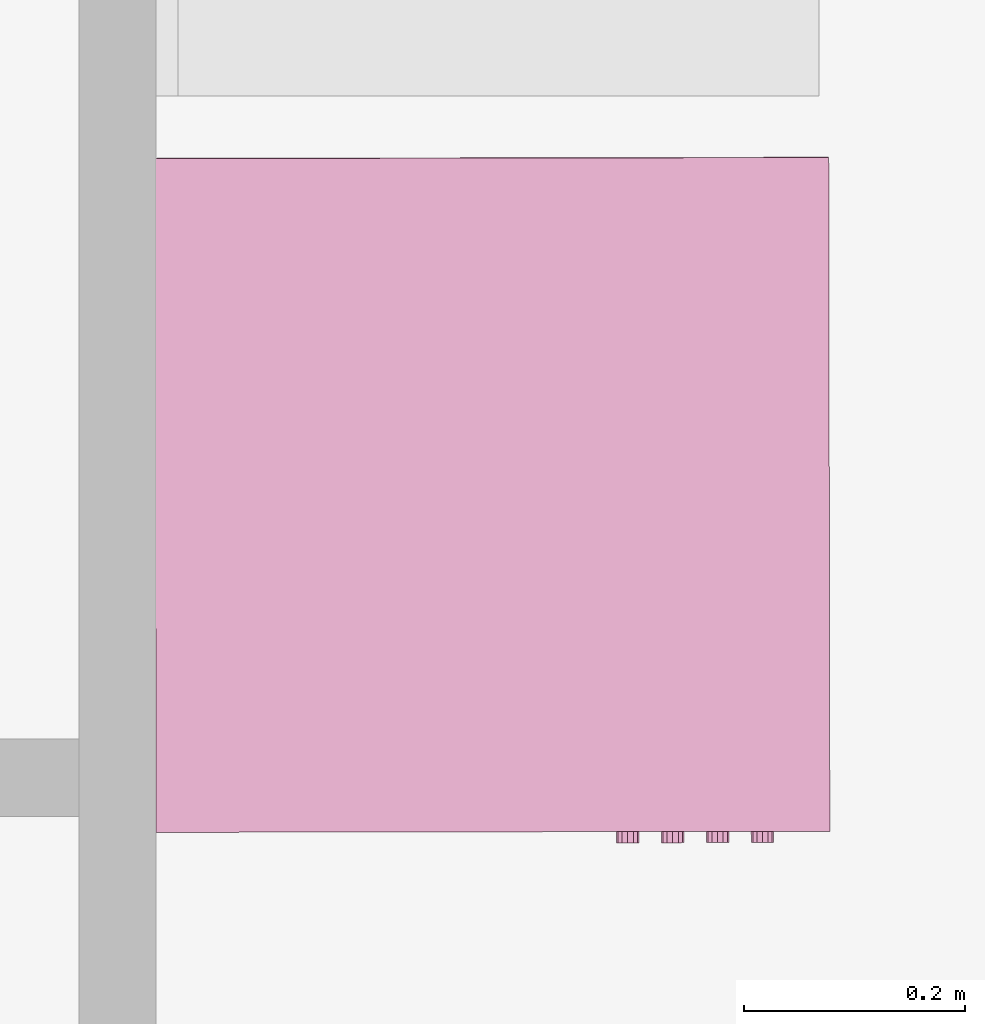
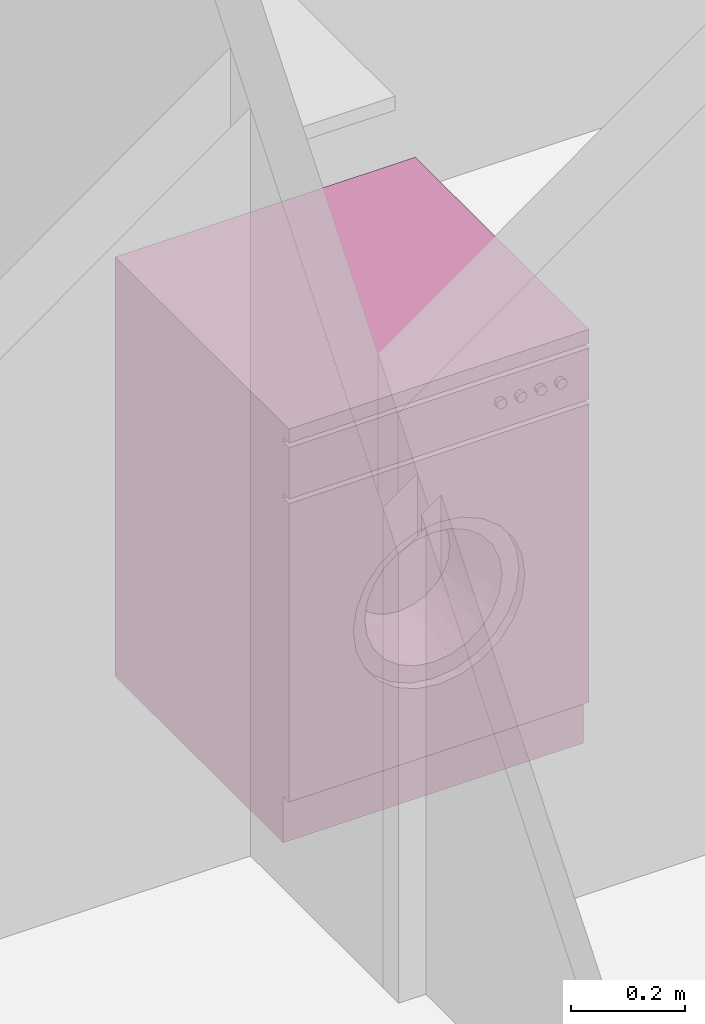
# One storey, part 120 of 164: 1 furnishing.
"""IFC2X3 building model written with IfcOpenShell, lengths in millimetres."""

from ifc_helpers import new_model, entity, si_unit, converted_unit, derived_unit, money_unit, direction, frame, origin_with_axes, place, context, subcontext, project, spatial, open_shell, faceted_brep, surface_model, source, transform, mapped, type_object, element, save


model = new_model("IFC2X3")

# Units and contexts
model_context = context("Model", 3, precision=0.01, world=origin_with_axes(), true_north=direction((0.0, 1.0)))
body_context = subcontext(model_context, "Body", "Model", "MODEL_VIEW")
ifc_project = project(units=[si_unit("LENGTHUNIT", "METRE", prefix="MILLI"), si_unit("AREAUNIT", "SQUARE_METRE"), si_unit("VOLUMEUNIT", "CUBIC_METRE"), converted_unit("PLANEANGLEUNIT", "DEGREE", entity("IfcPlaneAngleMeasure", 0.0174532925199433), si_unit("PLANEANGLEUNIT", "RADIAN"), dimensions=[0, 0, 0, 0, 0, 0, 0]), money_unit("USD"), converted_unit("TIMEUNIT", "Year", entity("IfcTimeMeasure", 31557600.0), si_unit("TIMEUNIT", "SECOND"), dimensions=[0, 0, 1, 0, 0, 0, 0]), si_unit("MASSUNIT", "GRAM", prefix="KILO"), si_unit("THERMODYNAMICTEMPERATUREUNIT", "DEGREE_CELSIUS"), si_unit("LUMINOUSINTENSITYUNIT", "LUMEN"), si_unit("ENERGYUNIT", "JOULE", prefix="MEGA"), derived_unit("THERMALCONDUCTANCEUNIT", [(si_unit("POWERUNIT", "WATT"), 1), (si_unit("LENGTHUNIT", "METRE"), -1), (si_unit("THERMODYNAMICTEMPERATUREUNIT", "KELVIN"), -1)]), derived_unit("SPECIFICHEATCAPACITYUNIT", [(si_unit("ENERGYUNIT", "JOULE"), 1), (si_unit("MASSUNIT", "GRAM", prefix="KILO"), -1), (si_unit("THERMODYNAMICTEMPERATUREUNIT", "KELVIN"), -1)]), derived_unit("MASSDENSITYUNIT", [(si_unit("MASSUNIT", "GRAM", prefix="KILO"), 1), (si_unit("VOLUMEUNIT", "CUBIC_METRE"), -1)])], contexts=[model_context])

# Site, building, storey
site_placement = place(None, origin_with_axes())
site = spatial("IfcSite", under=ifc_project, at=site_placement, Name="Site", CompositionType="ELEMENT")
building_placement = place(site_placement, origin_with_axes())
building = spatial("IfcBuilding", under=site, at=building_placement, Name="Bâtiment", CompositionType="ELEMENT")
storey_placement = place(building_placement, frame((0.0, 0.0, 5750.0), z_axis=(0.0, 0.0, 1.0), x_axis=(1.0, 0.0, 0.0)))
storey = spatial("IfcBuildingStorey", under=building, at=storey_placement, Name="Etage1", CompositionType="ELEMENT", Elevation=5750.0)

# Furnishing
furnishing_element_type = type_object("IfcFurnishingElementType", Name="Machine à laver")
shared_shape = source(origin_with_axes(), body_context, "Body", "SurfaceModel", [
    faceted_brep([(0.0, 20.33333333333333, 100.0), (0.0, 0.0, 100.0), (-610.0, 0.0, 100.0), (-610.0, 20.33333333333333, 100.0), (0.0, 20.33333333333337, 740.0), (0.0, 0.0, 740.0), (-610.0, 0.0, 740.0), (-479.2857142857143, 0.0, 420.0000000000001), (-473.3470725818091, 0.0, 465.1084621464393), (-455.935856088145, 0.0, 507.1428571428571), (-428.2386104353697, 0.0, 543.2386104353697), (-392.1428571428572, 0.0, 570.935856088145), (-350.1084621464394, 0.0, 588.347072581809), (-305.0000000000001, 0.0, 594.2857142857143), (-259.8915378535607, 0.0, 588.347072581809), (-217.8571428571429, 0.0, 570.9358560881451), (-181.7613895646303, 0.0, 543.2386104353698), (-154.0641439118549, 0.0, 507.1428571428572), (-136.6529274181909, 0.0, 465.1084621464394), (-130.7142857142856, 0.0, 420.0000000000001), (-136.6529274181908, 0.0, 374.8915378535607), (-154.0641439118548, 0.0, 332.8571428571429), (-181.7613895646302, 0.0, 296.7613895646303), (-217.8571428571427, 0.0, 269.064143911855), (-259.8915378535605, 0.0, 251.6529274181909), (-304.9999999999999, 0.0, 245.7142857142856), (-350.1084621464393, 0.0, 251.6529274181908), (-392.1428571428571, 0.0, 269.0641439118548), (-428.2386104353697, 0.0, 296.7613895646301), (-455.935856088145, 0.0, 332.8571428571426), (-473.3470725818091, 0.0, 374.8915378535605), (-610.0, 20.33333333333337, 740.0), (-479.2857142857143, 20.33333333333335, 420.0000000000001), (-473.3470725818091, 20.33333333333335, 374.8915378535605), (-455.935856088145, 20.33333333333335, 332.8571428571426), (-428.2386104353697, 20.33333333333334, 296.7613895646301), (-392.1428571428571, 20.33333333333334, 269.0641439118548), (-350.1084621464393, 20.33333333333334, 251.6529274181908), (-304.9999999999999, 20.33333333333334, 245.7142857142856), (-259.8915378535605, 20.33333333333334, 251.6529274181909), (-217.8571428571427, 20.33333333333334, 269.064143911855), (-181.7613895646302, 20.33333333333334, 296.7613895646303), (-154.0641439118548, 20.33333333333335, 332.8571428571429), (-136.6529274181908, 20.33333333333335, 374.8915378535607), (-130.7142857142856, 20.33333333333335, 420.0000000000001), (-136.6529274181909, 20.33333333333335, 465.1084621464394), (-154.0641439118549, 20.33333333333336, 507.1428571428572), (-181.7613895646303, 20.33333333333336, 543.2386104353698), (-217.8571428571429, 20.33333333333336, 570.9358560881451), (-259.8915378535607, 20.33333333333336, 588.347072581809), (-305.0000000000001, 20.33333333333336, 594.2857142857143), (-350.1084621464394, 20.33333333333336, 588.347072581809), (-392.1428571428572, 20.33333333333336, 570.935856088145), (-428.2386104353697, 20.33333333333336, 543.2386104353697), (-455.935856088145, 20.33333333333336, 507.1428571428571), (-473.3470725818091, 20.33333333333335, 465.1084621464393)], [[[0, 1, 2, 3]], [[4, 5, 1, 0]], [[1, 5, 6, 2], [7, 8, 9, 10, 11, 12, 13, 14, 15, 16, 17, 18, 19, 20, 21, 22, 23, 24, 25, 26, 27, 28, 29, 30]], [[3, 2, 6, 31]], [[0, 3, 31, 4], [32, 33, 34, 35, 36, 37, 38, 39, 40, 41, 42, 43, 44, 45, 46, 47, 48, 49, 50, 51, 52, 53, 54, 55]], [[31, 6, 5, 4]], [[55, 8, 7, 32]], [[54, 9, 8, 55]], [[53, 10, 9, 54]], [[52, 11, 10, 53]], [[51, 12, 11, 52]], [[50, 13, 12, 51]], [[49, 14, 13, 50]], [[48, 15, 14, 49]], [[47, 16, 15, 48]], [[46, 17, 16, 47]], [[45, 18, 17, 46]], [[44, 19, 18, 45]], [[43, 20, 19, 44]], [[42, 21, 20, 43]], [[41, 22, 21, 42]], [[40, 23, 22, 41]], [[39, 24, 23, 40]], [[38, 25, 24, 39]], [[37, 26, 25, 38]], [[36, 27, 26, 37]], [[35, 28, 27, 36]], [[34, 29, 28, 35]], [[33, 30, 29, 34]], [[32, 7, 30, 33]]]),
    faceted_brep([(-479.2857142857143, 40.66666666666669, 420.0000000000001), (-479.2857142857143, 20.33333333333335, 420.0000000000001), (-473.3470725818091, 20.33333333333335, 465.1084621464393), (-473.3470725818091, 40.66666666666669, 465.1084621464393), (-473.3470725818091, 40.66666666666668, 374.8915378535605), (-473.3470725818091, 20.33333333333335, 374.8915378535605), (-455.935856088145, 20.33333333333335, 332.8571428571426), (-428.2386104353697, 20.33333333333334, 296.7613895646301), (-392.1428571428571, 20.33333333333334, 269.0641439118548), (-350.1084621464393, 20.33333333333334, 251.6529274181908), (-304.9999999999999, 20.33333333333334, 245.7142857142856), (-259.8915378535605, 20.33333333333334, 251.6529274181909), (-217.8571428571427, 20.33333333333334, 269.064143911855), (-181.7613895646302, 20.33333333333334, 296.7613895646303), (-154.0641439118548, 20.33333333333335, 332.8571428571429), (-136.6529274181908, 20.33333333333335, 374.8915378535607), (-130.7142857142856, 20.33333333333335, 420.0000000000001), (-136.6529274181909, 20.33333333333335, 465.1084621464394), (-154.0641439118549, 20.33333333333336, 507.1428571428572), (-181.7613895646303, 20.33333333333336, 543.2386104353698), (-217.8571428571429, 20.33333333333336, 570.9358560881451), (-259.8915378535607, 20.33333333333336, 588.347072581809), (-305.0000000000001, 20.33333333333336, 594.2857142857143), (-350.1084621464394, 20.33333333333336, 588.347072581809), (-392.1428571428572, 20.33333333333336, 570.935856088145), (-428.2386104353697, 20.33333333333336, 543.2386104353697), (-455.935856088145, 20.33333333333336, 507.1428571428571), (-444.4285714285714, 20.33333333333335, 420.0000000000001), (-439.6776580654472, 20.33333333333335, 456.0867697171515), (-425.748684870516, 20.33333333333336, 489.7142857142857), (-403.5908883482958, 20.33333333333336, 518.5908883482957), (-374.7142857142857, 20.33333333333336, 540.748684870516), (-341.0867697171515, 20.33333333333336, 554.6776580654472), (-305.0000000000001, 20.33333333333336, 559.4285714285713), (-268.9132302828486, 20.33333333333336, 554.6776580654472), (-235.2857142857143, 20.33333333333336, 540.7486848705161), (-206.4091116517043, 20.33333333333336, 518.5908883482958), (-184.251315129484, 20.33333333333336, 489.7142857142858), (-170.3223419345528, 20.33333333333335, 456.0867697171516), (-165.5714285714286, 20.33333333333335, 420.0000000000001), (-170.3223419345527, 20.33333333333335, 383.9132302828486), (-184.2513151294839, 20.33333333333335, 350.2857142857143), (-206.4091116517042, 20.33333333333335, 321.4091116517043), (-235.2857142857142, 20.33333333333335, 299.251315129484), (-268.9132302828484, 20.33333333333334, 285.3223419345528), (-304.9999999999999, 20.33333333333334, 280.5714285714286), (-341.0867697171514, 20.33333333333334, 285.3223419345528), (-374.7142857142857, 20.33333333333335, 299.2513151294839), (-403.5908883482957, 20.33333333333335, 321.4091116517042), (-425.748684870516, 20.33333333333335, 350.2857142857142), (-439.6776580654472, 20.33333333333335, 383.9132302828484), (-455.935856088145, 40.66666666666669, 507.1428571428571), (-428.2386104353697, 40.66666666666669, 543.2386104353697), (-392.1428571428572, 40.66666666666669, 570.935856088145), (-350.1084621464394, 40.66666666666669, 588.347072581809), (-305.0000000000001, 40.66666666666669, 594.2857142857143), (-259.8915378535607, 40.66666666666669, 588.347072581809), (-217.8571428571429, 40.66666666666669, 570.9358560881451), (-181.7613895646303, 40.66666666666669, 543.2386104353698), (-154.0641439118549, 40.66666666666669, 507.1428571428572), (-136.6529274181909, 40.66666666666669, 465.1084621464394), (-130.7142857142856, 40.66666666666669, 420.0000000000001), (-136.6529274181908, 40.66666666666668, 374.8915378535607), (-154.0641439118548, 40.66666666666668, 332.8571428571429), (-181.7613895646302, 40.66666666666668, 296.7613895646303), (-217.8571428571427, 40.66666666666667, 269.064143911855), (-259.8915378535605, 40.66666666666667, 251.6529274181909), (-304.9999999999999, 40.66666666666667, 245.7142857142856), (-350.1084621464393, 40.66666666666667, 251.6529274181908), (-392.1428571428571, 40.66666666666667, 269.0641439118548), (-428.2386104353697, 40.66666666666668, 296.7613895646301), (-455.935856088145, 40.66666666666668, 332.8571428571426), (-444.4285714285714, 40.66666666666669, 420.0000000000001), (-439.6776580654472, 40.66666666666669, 383.9132302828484), (-425.748684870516, 40.66666666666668, 350.2857142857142), (-403.5908883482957, 40.66666666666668, 321.4091116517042), (-374.7142857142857, 40.66666666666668, 299.2513151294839), (-341.0867697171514, 40.66666666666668, 285.3223419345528), (-304.9999999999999, 40.66666666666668, 280.5714285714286), (-268.9132302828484, 40.66666666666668, 285.3223419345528), (-235.2857142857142, 40.66666666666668, 299.251315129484), (-206.4091116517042, 40.66666666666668, 321.4091116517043), (-184.2513151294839, 40.66666666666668, 350.2857142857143), (-170.3223419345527, 40.66666666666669, 383.9132302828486), (-165.5714285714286, 40.66666666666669, 420.0000000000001), (-170.3223419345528, 40.66666666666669, 456.0867697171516), (-184.251315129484, 40.66666666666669, 489.7142857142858), (-206.4091116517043, 40.66666666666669, 518.5908883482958), (-235.2857142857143, 40.66666666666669, 540.7486848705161), (-268.9132302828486, 40.66666666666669, 554.6776580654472), (-305.0000000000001, 40.66666666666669, 559.4285714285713), (-341.0867697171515, 40.66666666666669, 554.6776580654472), (-374.7142857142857, 40.66666666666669, 540.748684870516), (-403.5908883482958, 40.66666666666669, 518.5908883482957), (-425.748684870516, 40.66666666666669, 489.7142857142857), (-439.6776580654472, 40.66666666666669, 456.0867697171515)], [[[0, 1, 2, 3]], [[4, 5, 1, 0]], [[1, 5, 6, 7, 8, 9, 10, 11, 12, 13, 14, 15, 16, 17, 18, 19, 20, 21, 22, 23, 24, 25, 26, 2], [27, 28, 29, 30, 31, 32, 33, 34, 35, 36, 37, 38, 39, 40, 41, 42, 43, 44, 45, 46, 47, 48, 49, 50]], [[3, 2, 26, 51]], [[0, 3, 51, 52, 53, 54, 55, 56, 57, 58, 59, 60, 61, 62, 63, 64, 65, 66, 67, 68, 69, 70, 71, 4], [72, 73, 74, 75, 76, 77, 78, 79, 80, 81, 82, 83, 84, 85, 86, 87, 88, 89, 90, 91, 92, 93, 94, 95]], [[71, 6, 5, 4]], [[70, 7, 6, 71]], [[69, 8, 7, 70]], [[68, 9, 8, 69]], [[67, 10, 9, 68]], [[66, 11, 10, 67]], [[65, 12, 11, 66]], [[64, 13, 12, 65]], [[63, 14, 13, 64]], [[62, 15, 14, 63]], [[61, 16, 15, 62]], [[60, 17, 16, 61]], [[59, 18, 17, 60]], [[58, 19, 18, 59]], [[57, 20, 19, 58]], [[56, 21, 20, 57]], [[55, 22, 21, 56]], [[54, 23, 22, 55]], [[53, 24, 23, 54]], [[52, 25, 24, 53]], [[51, 26, 25, 52]], [[95, 28, 27, 72]], [[94, 29, 28, 95]], [[93, 30, 29, 94]], [[92, 31, 30, 93]], [[91, 32, 31, 92]], [[90, 33, 32, 91]], [[89, 34, 33, 90]], [[88, 35, 34, 89]], [[87, 36, 35, 88]], [[86, 37, 36, 87]], [[85, 38, 37, 86]], [[84, 39, 38, 85]], [[83, 40, 39, 84]], [[82, 41, 40, 83]], [[81, 42, 41, 82]], [[80, 43, 42, 81]], [[79, 44, 43, 80]], [[78, 45, 44, 79]], [[77, 46, 45, 78]], [[76, 47, 46, 77]], [[75, 48, 47, 76]], [[74, 49, 48, 75]], [[73, 50, 49, 74]], [[72, 27, 50, 73]]]),
    surface_model("IfcShellBasedSurfaceModel", [(-268.9132302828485, 40.6666666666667, 554.6776580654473), (-277.9349227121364, 142.3333333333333, 521.0082435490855), (-305.0, 142.3333333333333, 524.5714285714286), (-305.0, 40.6666666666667, 559.4285714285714), (-235.2857142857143, 40.6666666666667, 540.7486848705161), (-252.7142857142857, 142.3333333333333, 510.5615136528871), (-231.0568337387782, 142.3333333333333, 493.9431662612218), (-214.438486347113, 142.3333333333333, 472.2857142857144), (-203.9917564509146, 142.3333333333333, 447.0650772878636), (-200.4285714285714, 142.3333333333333, 420.0000000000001), (-203.9917564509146, 142.3333333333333, 392.9349227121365), (-214.4384863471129, 142.3333333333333, 367.7142857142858), (-231.0568337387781, 142.3333333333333, 346.0568337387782), (-252.7142857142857, 142.3333333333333, 329.438486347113), (-277.9349227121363, 142.3333333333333, 318.9917564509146), (-304.9999999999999, 142.3333333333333, 315.4285714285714), (-332.0650772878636, 142.3333333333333, 318.9917564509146), (-357.2857142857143, 142.3333333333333, 329.438486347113), (-378.9431662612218, 142.3333333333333, 346.0568337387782), (-395.561513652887, 142.3333333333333, 367.7142857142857), (-406.0082435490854, 142.3333333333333, 392.9349227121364), (-409.5714285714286, 142.3333333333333, 420.0), (-406.0082435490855, 142.3333333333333, 447.0650772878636), (-395.5615136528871, 142.3333333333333, 472.2857142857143), (-378.9431662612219, 142.3333333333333, 493.9431662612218), (-357.2857142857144, 142.3333333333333, 510.5615136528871), (-332.0650772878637, 142.3333333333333, 521.0082435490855), (-341.0867697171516, 40.6666666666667, 554.6776580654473), (-206.4091116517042, 40.66666666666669, 518.5908883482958), (-184.251315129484, 40.66666666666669, 489.7142857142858), (-170.3223419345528, 40.66666666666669, 456.0867697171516), (-165.5714285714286, 40.66666666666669, 420.0000000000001), (-170.3223419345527, 40.66666666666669, 383.9132302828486), (-184.2513151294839, 40.66666666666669, 350.2857142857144), (-206.4091116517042, 40.66666666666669, 321.4091116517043), (-235.2857142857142, 40.66666666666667, 299.251315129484), (-268.9132302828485, 40.66666666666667, 285.3223419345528), (-304.9999999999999, 40.66666666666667, 280.5714285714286), (-341.0867697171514, 40.66666666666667, 285.3223419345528), (-374.7142857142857, 40.66666666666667, 299.2513151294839), (-403.5908883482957, 40.66666666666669, 321.4091116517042), (-425.748684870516, 40.66666666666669, 350.2857142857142), (-439.6776580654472, 40.66666666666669, 383.9132302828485), (-444.4285714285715, 40.66666666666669, 419.9999999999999), (-439.6776580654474, 40.66666666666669, 456.0867697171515), (-425.7486848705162, 40.66666666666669, 489.7142857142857), (-403.5908883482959, 40.66666666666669, 518.5908883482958), (-374.7142857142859, 40.6666666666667, 540.7486848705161)], [open_shell([[[0, 1, 2, 3]], [[4, 5, 1, 0]], [[2, 1, 5, 6, 7, 8, 9, 10, 11, 12, 13, 14, 15, 16, 17, 18, 19, 20, 21, 22, 23, 24, 25, 26]], [[3, 2, 26, 27]], [[28, 6, 5, 4]], [[29, 7, 6, 28]], [[30, 8, 7, 29]], [[31, 9, 8, 30]], [[32, 10, 9, 31]], [[33, 11, 10, 32]], [[34, 12, 11, 33]], [[35, 13, 12, 34]], [[36, 14, 13, 35]], [[37, 15, 14, 36]], [[38, 16, 15, 37]], [[39, 17, 16, 38]], [[40, 18, 17, 39]], [[41, 19, 18, 40]], [[42, 20, 19, 41]], [[43, 21, 20, 42]], [[44, 22, 21, 43]], [[45, 23, 22, 44]], [[46, 24, 23, 45]], [[47, 25, 24, 46]], [[27, 26, 25, 47]]])]),
    surface_model("IfcShellBasedSurfaceModel", [(0.0, 20.33333333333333, 100.0), (0.0, 610.0, 99.99999999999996), (0.0, 610.0, 870.0), (0.0, 20.33333333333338, 870.0)], [open_shell([[[0, 1, 2, 3]]])]),
    surface_model("IfcShellBasedSurfaceModel", [(-610.0, 20.33333333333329, 100.0), (-610.0, 610.0, 99.99999999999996), (-610.0, 610.0, 870.0), (-610.0, 20.33333333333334, 870.0)], [open_shell([[[0, 1, 2, 3]]])]),
    surface_model("IfcShellBasedSurfaceModel", [(0.0, 610.0, 100.0), (-610.0, 610.0, 100.0), (-610.0, 610.0, 870.0), (0.0, 610.0, 870.0)], [open_shell([[[0, 1, 2, 3]]])]),
    faceted_brep([(0.0, 20.33333333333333, 0.0), (0.0, 20.33333333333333, 100.0), (-610.0, 20.33333333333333, 100.0), (-610.0, 20.33333333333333, 0.0), (0.0, 610.3333333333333, 0.0), (0.0, 610.3333333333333, 100.0), (-610.0, 610.3333333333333, 100.0), (-610.0, 610.3333333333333, 0.0)], [[[0, 1, 2, 3]], [[4, 5, 1, 0]], [[1, 5, 6, 2]], [[3, 2, 6, 7]], [[0, 3, 7, 4]], [[7, 6, 5, 4]]]),
    faceted_brep([(0.0, 20.33333333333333, 750.0), (0.0, 0.0, 750.0), (-610.0, 0.0, 750.0), (-610.0, 20.33333333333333, 750.0), (0.0, 20.33333333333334, 860.0), (0.0, 0.0, 860.0), (-610.0, 0.0, 860.0), (-610.0, 20.33333333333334, 860.0)], [[[0, 1, 2, 3]], [[4, 5, 1, 0]], [[1, 5, 6, 2]], [[3, 2, 6, 7]], [[0, 3, 7, 4]], [[7, 6, 5, 4]]]),
    surface_model("IfcShellBasedSurfaceModel", [(0.0, 20.33333333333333, 739.8333333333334), (-610.0, 20.33333333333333, 739.8333333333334), (-610.0, 20.33333333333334, 869.8333333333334), (0.0, 20.33333333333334, 869.8333333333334)], [open_shell([[[0, 1, 2, 3]]])]),
    faceted_brep([(0.0, 0.0, 870.0), (0.0, 0.0, 900.0), (-610.0, 0.0, 900.0), (-610.0, 0.0, 870.0), (0.0, 610.0, 870.0), (0.0, 610.0, 900.0), (-610.0, 610.0, 900.0), (-610.0, 610.0, 870.0)], [[[0, 1, 2, 3]], [[4, 5, 1, 0]], [[1, 5, 6, 2]], [[3, 2, 6, 7]], [[0, 3, 7, 4]], [[7, 6, 5, 4]]]),
    faceted_brep([(-69.80459160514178, 0.0, 804.9166666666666), (-71.16666666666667, 0.0, 809.9999999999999), (-69.8045916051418, 0.0, 815.0833333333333), (-66.08333333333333, 0.0, 818.8045916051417), (-61.0, 0.0, 820.1666666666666), (-55.91666666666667, 0.0, 818.8045916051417), (-52.19540839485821, 0.0, 815.0833333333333), (-50.83333333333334, 0.0, 809.9999999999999), (-52.1954083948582, 0.0, 804.9166666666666), (-55.91666666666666, 0.0, 801.1954083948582), (-60.99999999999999, 0.0, 799.8333333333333), (-66.08333333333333, 0.0, 801.1954083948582), (-69.80459160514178, -10.16666666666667, 804.9166666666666), (-71.16666666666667, -10.16666666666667, 809.9999999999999), (-69.8045916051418, -10.16666666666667, 815.0833333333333), (-66.08333333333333, -10.16666666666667, 818.8045916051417), (-61.0, -10.16666666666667, 820.1666666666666), (-55.91666666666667, -10.16666666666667, 818.8045916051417), (-52.19540839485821, -10.16666666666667, 815.0833333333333), (-50.83333333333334, -10.16666666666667, 809.9999999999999), (-52.1954083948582, -10.16666666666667, 804.9166666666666), (-55.91666666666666, -10.16666666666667, 801.1954083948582), (-60.99999999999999, -10.16666666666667, 799.8333333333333), (-66.08333333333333, -10.16666666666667, 801.1954083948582)], [[[0, 1, 2, 3, 4, 5, 6, 7, 8, 9, 10, 11]], [[0, 12, 13, 1]], [[1, 13, 14, 2]], [[2, 14, 15, 3]], [[3, 15, 16, 4]], [[4, 16, 17, 5]], [[5, 17, 18, 6]], [[6, 18, 19, 7]], [[7, 19, 20, 8]], [[8, 20, 21, 9]], [[9, 21, 22, 10]], [[10, 22, 23, 11]], [[11, 23, 12, 0]], [[12, 23, 22, 21, 20, 19, 18, 17, 16, 15, 14, 13]]]),
    faceted_brep([(-110.4712582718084, 0.0, 804.9166666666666), (-111.8333333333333, 0.0, 809.9999999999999), (-110.4712582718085, 0.0, 815.0833333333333), (-106.75, 0.0, 818.8045916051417), (-101.6666666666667, 0.0, 820.1666666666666), (-96.58333333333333, 0.0, 818.8045916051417), (-92.86207506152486, 0.0, 815.0833333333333), (-91.49999999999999, 0.0, 809.9999999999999), (-92.86207506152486, 0.0, 804.9166666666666), (-96.58333333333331, 0.0, 801.1954083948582), (-101.6666666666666, 0.0, 799.8333333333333), (-106.75, 0.0, 801.1954083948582), (-110.4712582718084, -10.16666666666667, 804.9166666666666), (-111.8333333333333, -10.16666666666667, 809.9999999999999), (-110.4712582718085, -10.16666666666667, 815.0833333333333), (-106.75, -10.16666666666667, 818.8045916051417), (-101.6666666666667, -10.16666666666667, 820.1666666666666), (-96.58333333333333, -10.16666666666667, 818.8045916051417), (-92.86207506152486, -10.16666666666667, 815.0833333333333), (-91.49999999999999, -10.16666666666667, 809.9999999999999), (-92.86207506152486, -10.16666666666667, 804.9166666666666), (-96.58333333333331, -10.16666666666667, 801.1954083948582), (-101.6666666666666, -10.16666666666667, 799.8333333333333), (-106.75, -10.16666666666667, 801.1954083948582)], [[[0, 1, 2, 3, 4, 5, 6, 7, 8, 9, 10, 11]], [[0, 12, 13, 1]], [[1, 13, 14, 2]], [[2, 14, 15, 3]], [[3, 15, 16, 4]], [[4, 16, 17, 5]], [[5, 17, 18, 6]], [[6, 18, 19, 7]], [[7, 19, 20, 8]], [[8, 20, 21, 9]], [[9, 21, 22, 10]], [[10, 22, 23, 11]], [[11, 23, 12, 0]], [[12, 23, 22, 21, 20, 19, 18, 17, 16, 15, 14, 13]]]),
    faceted_brep([(-151.1379249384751, 0.0, 804.9166666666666), (-152.5, 0.0, 809.9999999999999), (-151.1379249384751, 0.0, 815.0833333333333), (-147.4166666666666, 0.0, 818.8045916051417), (-142.3333333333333, 0.0, 820.1666666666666), (-137.25, 0.0, 818.8045916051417), (-133.5287417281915, 0.0, 815.0833333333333), (-132.1666666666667, 0.0, 809.9999999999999), (-133.5287417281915, 0.0, 804.9166666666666), (-137.25, 0.0, 801.1954083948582), (-142.3333333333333, 0.0, 799.8333333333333), (-147.4166666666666, 0.0, 801.1954083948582), (-151.1379249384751, -10.16666666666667, 804.9166666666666), (-152.5, -10.16666666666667, 809.9999999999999), (-151.1379249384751, -10.16666666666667, 815.0833333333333), (-147.4166666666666, -10.16666666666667, 818.8045916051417), (-142.3333333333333, -10.16666666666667, 820.1666666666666), (-137.25, -10.16666666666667, 818.8045916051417), (-133.5287417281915, -10.16666666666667, 815.0833333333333), (-132.1666666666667, -10.16666666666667, 809.9999999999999), (-133.5287417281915, -10.16666666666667, 804.9166666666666), (-137.25, -10.16666666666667, 801.1954083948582), (-142.3333333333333, -10.16666666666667, 799.8333333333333), (-147.4166666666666, -10.16666666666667, 801.1954083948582)], [[[0, 1, 2, 3, 4, 5, 6, 7, 8, 9, 10, 11]], [[0, 12, 13, 1]], [[1, 13, 14, 2]], [[2, 14, 15, 3]], [[3, 15, 16, 4]], [[4, 16, 17, 5]], [[5, 17, 18, 6]], [[6, 18, 19, 7]], [[7, 19, 20, 8]], [[8, 20, 21, 9]], [[9, 21, 22, 10]], [[10, 22, 23, 11]], [[11, 23, 12, 0]], [[12, 23, 22, 21, 20, 19, 18, 17, 16, 15, 14, 13]]]),
    faceted_brep([(-191.8045916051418, 0.0, 804.9166666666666), (-193.1666666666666, 0.0, 809.9999999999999), (-191.8045916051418, 0.0, 815.0833333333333), (-188.0833333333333, 0.0, 818.8045916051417), (-183.0, 0.0, 820.1666666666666), (-177.9166666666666, 0.0, 818.8045916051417), (-174.1954083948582, 0.0, 815.0833333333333), (-172.8333333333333, 0.0, 809.9999999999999), (-174.1954083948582, 0.0, 804.9166666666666), (-177.9166666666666, 0.0, 801.1954083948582), (-183.0, 0.0, 799.8333333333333), (-188.0833333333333, 0.0, 801.1954083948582), (-191.8045916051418, -10.16666666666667, 804.9166666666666), (-193.1666666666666, -10.16666666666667, 809.9999999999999), (-191.8045916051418, -10.16666666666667, 815.0833333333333), (-188.0833333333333, -10.16666666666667, 818.8045916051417), (-183.0, -10.16666666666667, 820.1666666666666), (-177.9166666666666, -10.16666666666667, 818.8045916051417), (-174.1954083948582, -10.16666666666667, 815.0833333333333), (-172.8333333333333, -10.16666666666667, 809.9999999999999), (-174.1954083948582, -10.16666666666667, 804.9166666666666), (-177.9166666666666, -10.16666666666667, 801.1954083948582), (-183.0, -10.16666666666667, 799.8333333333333), (-188.0833333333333, -10.16666666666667, 801.1954083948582)], [[[0, 1, 2, 3, 4, 5, 6, 7, 8, 9, 10, 11]], [[0, 12, 13, 1]], [[1, 13, 14, 2]], [[2, 14, 15, 3]], [[3, 15, 16, 4]], [[4, 16, 17, 5]], [[5, 17, 18, 6]], [[6, 18, 19, 7]], [[7, 19, 20, 8]], [[8, 20, 21, 9]], [[9, 21, 22, 10]], [[10, 22, 23, 11]], [[11, 23, 12, 0]], [[12, 23, 22, 21, 20, 19, 18, 17, 16, 15, 14, 13]]]),
])
furnishing_placement = place(storey_placement, frame((2221690.880980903, -634250.1343182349, 0.0), z_axis=(0.0, 0.0, 1.0), x_axis=(0.9999986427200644, 0.00164759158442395, 0.0)))
element("IfcFurnishingElement", 1, at=furnishing_placement, inside=storey, type_object=furnishing_element_type, Name="Obj.-003", context=body_context, shape_type="MappedRepresentation", body=[
    mapped(shared_shape, transform((0.0, 0.0, 0.0))),
])

save(model, "model.ifc")
